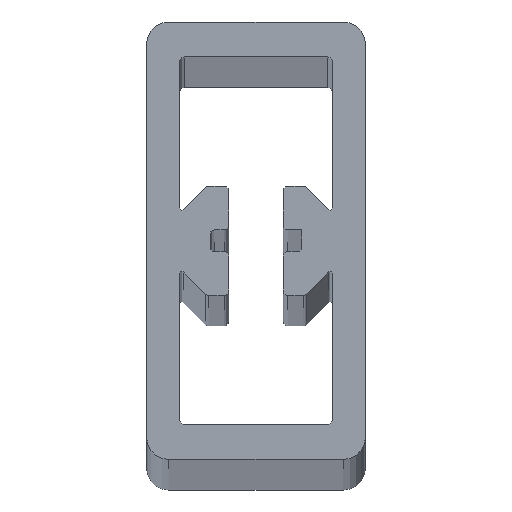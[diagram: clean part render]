
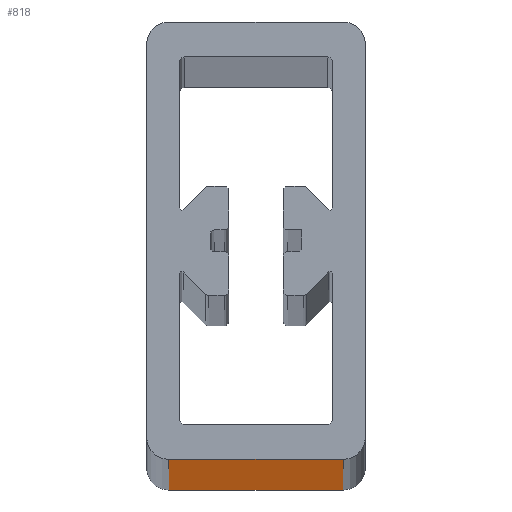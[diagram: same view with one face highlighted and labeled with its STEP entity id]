
A CAD part, top view. The second image highlights one B-rep face of the part: STEP entity #818.
In plain terms, the highlighted planar face has unit normal (0, -1, 0).
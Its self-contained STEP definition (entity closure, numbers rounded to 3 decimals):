
#77 = EDGE_CURVE ( 'NONE', #1849, #1617, #1943, .T. ) ;
#93 = CARTESIAN_POINT ( 'NONE',  ( -4., -10., 400. ) ) ;
#109 = CARTESIAN_POINT ( 'NONE',  ( 4., -10., 400. ) ) ;
#116 = CARTESIAN_POINT ( 'NONE',  ( -4., -10., -400. ) ) ;
#160 = ORIENTED_EDGE ( 'NONE', *, *, #636, .F. ) ;
#166 = VERTEX_POINT ( 'NONE', #1217 ) ;
#465 = CARTESIAN_POINT ( 'NONE',  ( -4., -10., -400. ) ) ;
#513 = CARTESIAN_POINT ( 'NONE',  ( -4., -10., 400. ) ) ;
#555 = CARTESIAN_POINT ( 'NONE',  ( -4., -10., 400. ) ) ;
#556 = DIRECTION ( 'NONE',  ( 0., 0., -1. ) ) ;
#631 = VECTOR ( 'NONE', #850, 1000. ) ;
#636 = EDGE_CURVE ( 'NONE', #1849, #166, #1328, .T. ) ;
#651 = ORIENTED_EDGE ( 'NONE', *, *, #659, .T. ) ;
#659 = EDGE_CURVE ( 'NONE', #1617, #796, #741, .T. ) ;
#698 = AXIS2_PLACEMENT_3D ( 'NONE', #513, #1283, #1541 ) ;
#741 = LINE ( 'NONE', #116, #1555 ) ;
#765 = ORIENTED_EDGE ( 'NONE', *, *, #77, .T. ) ;
#796 = VERTEX_POINT ( 'NONE', #1492 ) ;
#818 = ADVANCED_FACE ( 'NONE', ( #1415 ), #1880, .F. ) ;
#846 = VECTOR ( 'NONE', #1808, 1000. ) ;
#850 = DIRECTION ( 'NONE',  ( 1., 0., 0. ) ) ;
#1217 = CARTESIAN_POINT ( 'NONE',  ( 4., -10., 400. ) ) ;
#1266 = VECTOR ( 'NONE', #556, 1000. ) ;
#1283 = DIRECTION ( 'NONE',  ( 0., 1., 0. ) ) ;
#1328 = LINE ( 'NONE', #93, #631 ) ;
#1415 = FACE_OUTER_BOUND ( 'NONE', #1544, .T. ) ;
#1441 = DIRECTION ( 'NONE',  ( 1., 0., 0. ) ) ;
#1472 = EDGE_CURVE ( 'NONE', #166, #796, #1923, .T. ) ;
#1492 = CARTESIAN_POINT ( 'NONE',  ( 4., -10., -400. ) ) ;
#1541 = DIRECTION ( 'NONE',  ( 0., 0., 1. ) ) ;
#1544 = EDGE_LOOP ( 'NONE', ( #651, #1756, #160, #765 ) ) ;
#1555 = VECTOR ( 'NONE', #1441, 1000. ) ;
#1617 = VERTEX_POINT ( 'NONE', #465 ) ;
#1756 = ORIENTED_EDGE ( 'NONE', *, *, #1472, .F. ) ;
#1800 = CARTESIAN_POINT ( 'NONE',  ( -4., -10., 400. ) ) ;
#1808 = DIRECTION ( 'NONE',  ( 0., 0., -1. ) ) ;
#1849 = VERTEX_POINT ( 'NONE', #555 ) ;
#1880 = PLANE ( 'NONE',  #698 ) ;
#1923 = LINE ( 'NONE', #109, #1266 ) ;
#1943 = LINE ( 'NONE', #1800, #846 ) ;
